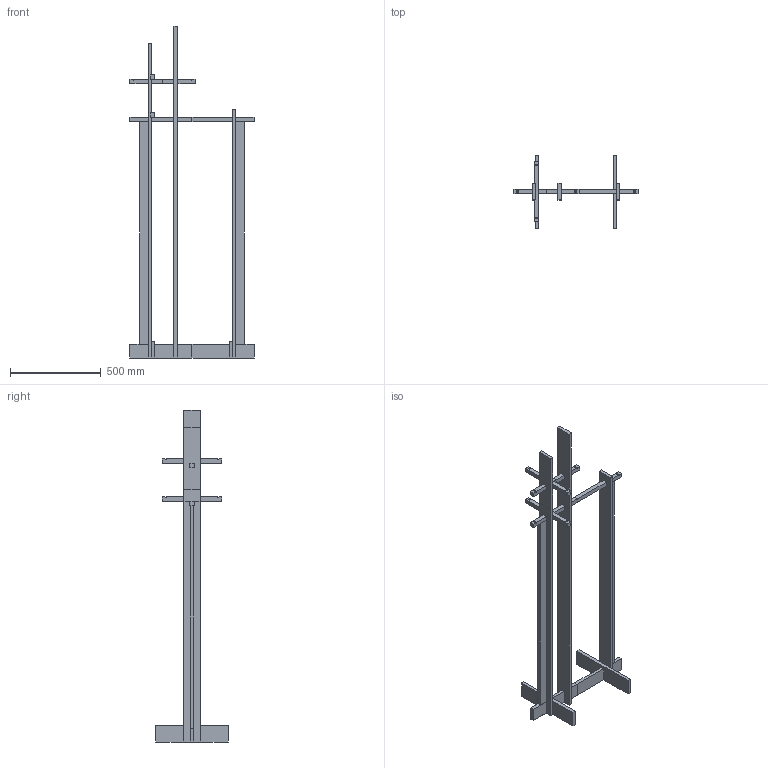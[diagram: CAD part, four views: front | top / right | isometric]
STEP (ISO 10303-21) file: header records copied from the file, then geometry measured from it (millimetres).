
FILE_DESCRIPTION(/* description */ (''),/* implementation_level */ '2;1');
FILE_NAME(/* name */ 'Bridge clothes stand_3D',/* time_stamp */ '2023-09-20T08:24:54+02:00',/* author */ (''),/* organization */ (''),/* preprocessor_version */ 'ST-DEVELOPER v16.5',/* originating_system */ 'Rhino 7.33',/* authorisation */ '');
FILE_SCHEMA (('CONFIG_CONTROL_DESIGN'));
Length unit declared in the file: millimetre
Products named in the file (1): Document
Bounding box: 685 x 400 x 1830 mm (x, y, z)
Volume: 10982474.6 mm3; surface area: 1882447.6 mm2
Topology: 12 solids, 14 shells, 255 faces, 636 edges, 410 vertices
Faces by surface type: plane 189, cylinder 58, bspline 8
Entity records: 6965 total; most frequent: CARTESIAN_POINT 2539, ORIENTED_EDGE 1252, EDGE_CURVE 630, B_SPLINE_CURVE_WITH_KNOTS 469, VERTEX_POINT 404, EDGE_LOOP 290, ADVANCED_FACE 255, FACE_OUTER_BOUND 255
